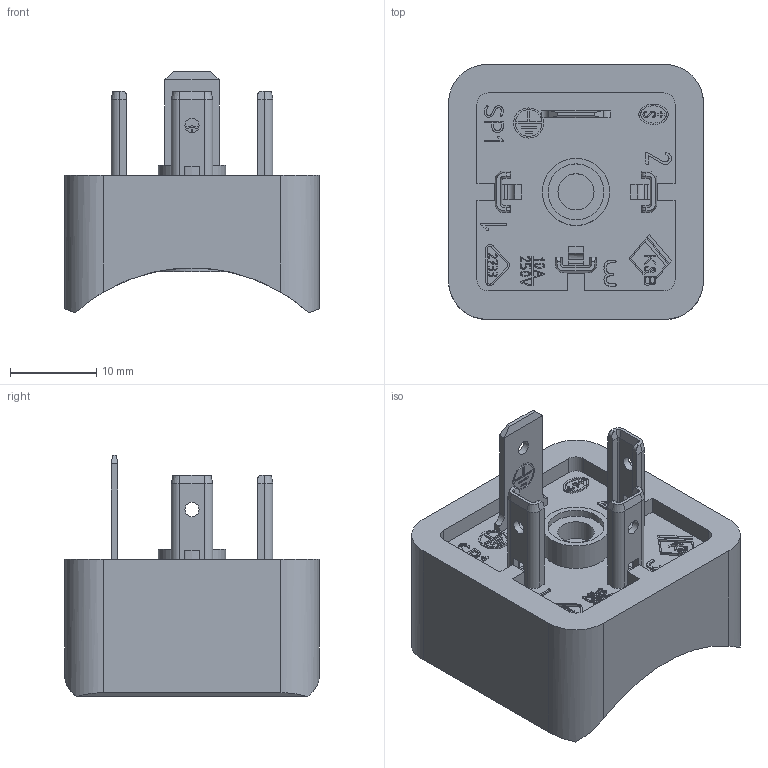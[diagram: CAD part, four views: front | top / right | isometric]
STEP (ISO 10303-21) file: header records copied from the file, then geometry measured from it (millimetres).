
FILE_DESCRIPTION(/* description */ (''),/* implementation_level */ '2;1');
FILE_NAME(/* name */ '43-1719-022-04_001-Gerätestecker.stp',/* time_stamp */ '2017-12-15T10:31:05+01:00',/* author */ (''),/* organization */ (''),/* preprocessor_version */ 'ST-DEVELOPER v16',/* originating_system */ 'SIEMENS PLM Software NX 11.0',/* authorisation */ '');
FILE_SCHEMA (('AUTOMOTIVE_DESIGN { 1 0 10303 214 3 1 1 1 }'));
Length unit declared in the file: millimetre
Products named in the file (1): mfur0C78FC40zvdw
Bounding box: 29.6 x 29.6 x 28.05 mm (x, y, z)
Volume: 6137 mm3; surface area: 5671.5 mm2
Topology: 1 solids, 1 shells, 786 faces, 2067 edges, 1355 vertices
Faces by surface type: plane 455, extrusion 185, cylinder 118, cone 12, torus 7, bspline 5, sphere 4
Full cylindrical faces by diameter (mm): 1.65 x4, 1.7 x1, 2 x1, 3.1 x2, 3.2 x1, 3.5 x1, 4.2 x2, 6.5 x1, 7.8 x2
Entity records: 26355 total; most frequent: CARTESIAN_POINT 7874, ORIENTED_EDGE 4090, DIRECTION 3114, EDGE_CURVE 2045, VECTOR 1390, VERTEX_POINT 1354, LINE 1205, EDGE_LOOP 895
